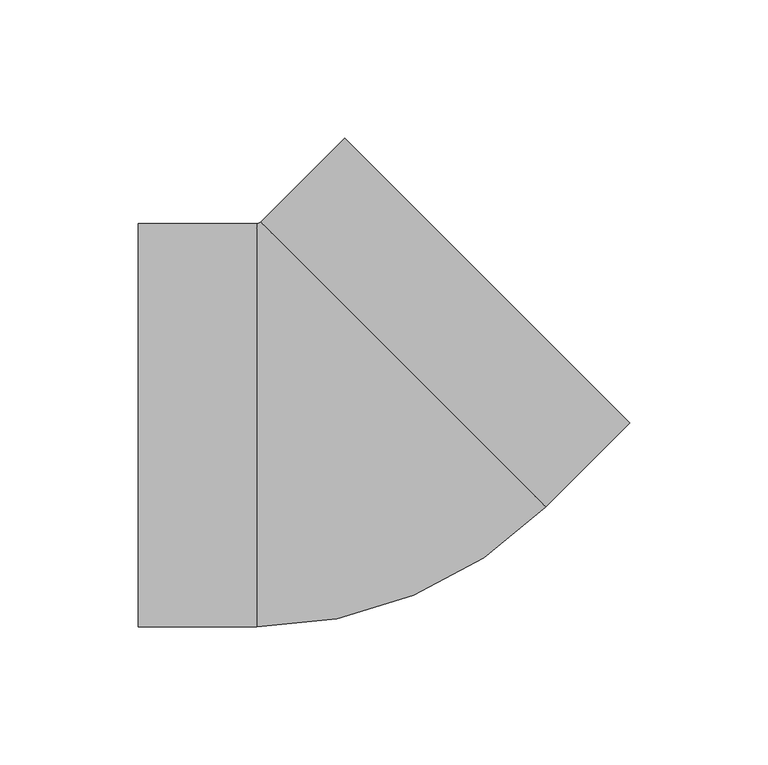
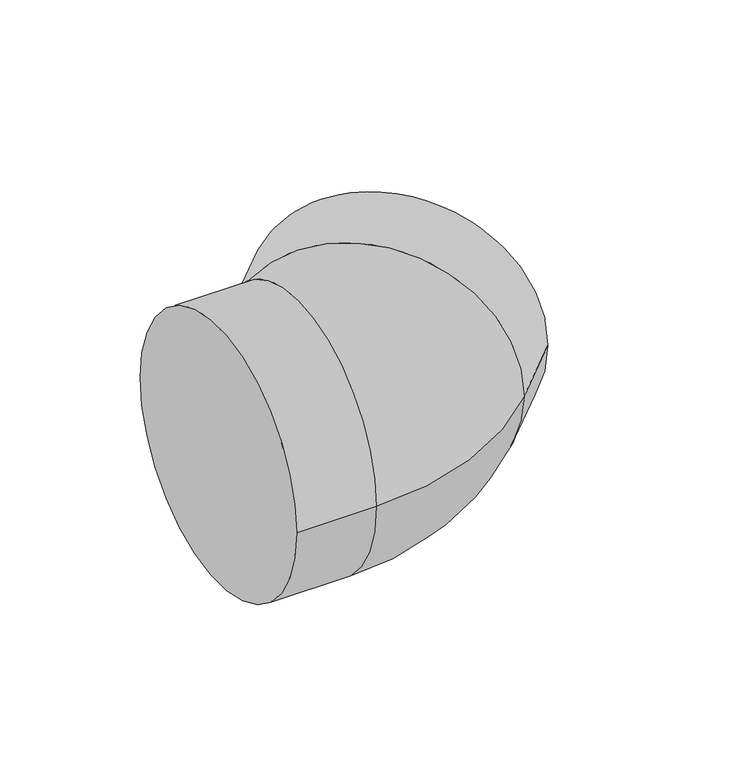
"""IFC4 building model written with IfcOpenShell, lengths in millimetres: pipe fitting geometry, NIRON RED termofusion codo : Estándar."""

from ifc_helpers import new_model, si_unit, point, frame, origin, place, context, project, spatial, circle_curve, ellipse_curve, trimmed, source, transform, mapped, element, save
from ifc_brep_helpers import plane_surface, cylinder_surface, revolved_surface, advanced_brep


def pipe_fitting_40e02b50(model_context):
    return source(origin(), model_context, "Body", "AdvancedBrep", [
        advanced_brep(
        [(-74.0313401, -73.0, 0.0), (-74.0313401, 73.0, 0.0), (-31.0313401, -73.0, 0.0), (-31.0313401, 73.0, 0.0), (-29.676324, 73.561266, 0.0), (73.561266, -29.676324, 0.0), (21.942471, 21.942471, 73.0), (21.942471, 21.942471, -73.0), (103.9668576, 0.7292675, 0.0), (0.7292675, 103.9668576, 0.0)],
        [
            (0, 1, circle_curve(frame((-74.0313401, 0.0, 0.0), z_axis=(-1.0, 0.0, 0.0), x_axis=(0.0, 1.0, 0.0)), 73.0)),
            (1, 0, circle_curve(frame((-74.0313401, 0.0, 0.0), z_axis=(-1.0, 0.0, 0.0), x_axis=(0.0, 1.0, 0.0)), 73.0)),
            (0, 2),
            (2, 3, circle_curve(frame((-31.0313401, 0.0, 0.0), z_axis=(-1.0, 0.0, 0.0), x_axis=(0.0, 1.0, 0.0)), 73.0)),
            (3, 1),
            (3, 2, circle_curve(frame((-31.0313401, 0.0, 0.0), z_axis=(-1.0, 0.0, 0.0), x_axis=(0.0, 1.0, 0.0)), 73.0)),
            (4, 3, circle_curve(frame((-31.0313401, 74.916282, 0.0), z_axis=(0.0, 0.0, -1.0), x_axis=(0.0, -1.0, 0.0)), 1.916282)),
            (2, 5, circle_curve(frame((-31.0313401, 74.916282, 0.0), z_axis=(0.0, 0.0, 1.0), x_axis=(0.0, -1.0, 0.0)), 147.916282)),
            (5, 6, circle_curve(frame((21.942471, 21.942471, 0.0), z_axis=(-0.7071067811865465, -0.7071067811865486, 0.0), x_axis=(-0.7071067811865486, 0.7071067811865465, 0.0)), 73.0)),
            (6, 4, circle_curve(frame((21.942471, 21.942471, 0.0), z_axis=(-0.7071067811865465, -0.7071067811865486, 0.0), x_axis=(-0.7071067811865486, 0.7071067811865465, 0.0)), 73.0)),
            (4, 7, circle_curve(frame((21.942471, 21.942471, 0.0), z_axis=(-0.7071067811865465, -0.7071067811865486, 0.0), x_axis=(-0.7071067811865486, 0.7071067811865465, 0.0)), 73.0)),
            (7, 5, circle_curve(frame((21.942471, 21.942471, 0.0), z_axis=(-0.7071067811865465, -0.7071067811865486, 0.0), x_axis=(-0.7071067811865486, 0.7071067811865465, 0.0)), 73.0)),
            (8, 9, circle_curve(frame((52.3480626, 52.3480626, 0.0), z_axis=(0.707106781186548, 0.707106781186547, 0.0), x_axis=(-0.707106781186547, 0.707106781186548, 0.0)), 73.0)),
            (9, 8, circle_curve(frame((52.3480626, 52.3480626, 0.0), z_axis=(0.707106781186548, 0.707106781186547, 0.0), x_axis=(-0.707106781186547, 0.707106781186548, 0.0)), 73.0)),
            (9, 4),
            (5, 8),
        ],
        [
            plane_surface(frame((-74.0313401, 0.0, 0.0), z_axis=(-1.0, 0.0, 0.0), x_axis=(0.0, 0.0, 1.0))),
            cylinder_surface(frame((-74.0313401, 0.0, 0.0), z_axis=(-1.0, 0.0, 0.0), x_axis=(0.0, 1.0, 0.0)), 73.0),
            revolved_surface(trimmed(ellipse_curve(frame((-31.0313401, 0.0, 0.0), z_axis=(-1.0, 0.0, 0.0), x_axis=(0.0, 1.0, 0.0)), 73.0, 73.0), [point((-31.0313401, -73.0, 0.0))], [point((-31.0313401, 73.0, 0.0))], True, "CARTESIAN"), (-31.0313401, 74.916282, 0.0), (0.0, 0.0, 1.0)),
            revolved_surface(trimmed(ellipse_curve(frame((-31.0313401, 0.0, 0.0), z_axis=(-1.0, 0.0, 0.0), x_axis=(0.0, 1.0, 0.0)), 73.0, 73.0), [point((-31.0313401, 73.0, 0.0))], [point((-31.0313401, -73.0, 0.0))], True, "CARTESIAN"), (-31.0313401, 74.916282, 0.0), (0.0, 0.0, 1.0)),
            plane_surface(frame((52.3480626, 52.3480626, 0.0), z_axis=(0.707106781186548, 0.707106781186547, 0.0), x_axis=(0.0, 0.0, 1.0))),
            cylinder_surface(frame((21.942471, 21.942471, 0.0), z_axis=(-0.707106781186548, -0.707106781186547, 0.0), x_axis=(-0.707106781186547, 0.707106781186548, 0.0)), 73.0),
        ],
        [
            (0, [[1, 2]]),
            (1, [[-1, 3, 4, 5]]),
            (1, [[-2, -5, 6, -3]]),
            (2, [[7, -4, 8, 9, 10]]),
            (3, [[-7, 11, 12, -8, -6]]),
            (4, [[13, 14]]),
            (5, [[-14, 15, -10, -9, 16]]),
            (5, [[-13, -16, -12, -11, -15]]),
        ],
    ),
    ])


if __name__ == "__main__":
    model = new_model("IFC4")
    model_context = context("Model", 3, world=origin())
    ifc_project = project(units=[si_unit("LENGTHUNIT", "METRE", prefix="MILLI")], contexts=[model_context])
    site = spatial("IfcSite", under=ifc_project)
    building = spatial("IfcBuilding", under=site)
    placement = place(None, origin())
    pipe_fitting_shape = pipe_fitting_40e02b50(model_context)
    element("IfcPipeFitting", 1, ObjectType="NIRON RED termofusion codo : Estándar", at=placement, inside=building, context=model_context, shape_type="MappedRepresentation", body=[
        mapped(pipe_fitting_shape, transform((0.0, 0.0, 0.0), x_axis=(1.0, 0.0, 0.0), y_axis=(0.0, 1.0, 0.0), z_axis=(0.0, 0.0, 1.0))),
    ])
    save(model, "model.ifc")
